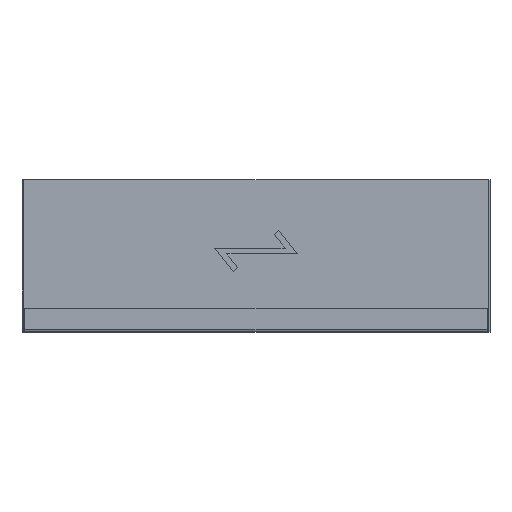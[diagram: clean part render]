
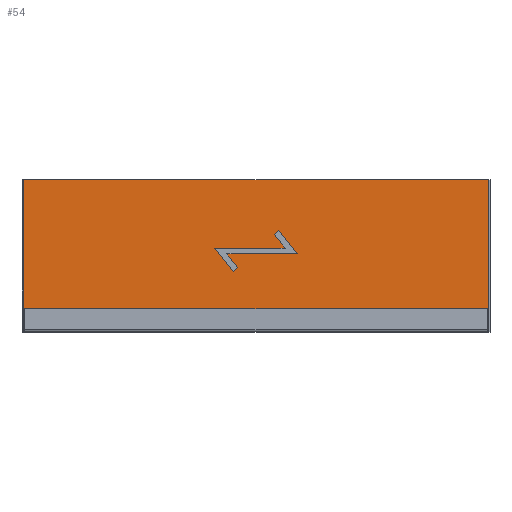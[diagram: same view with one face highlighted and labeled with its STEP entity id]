
A CAD part, top view. The second image highlights one B-rep face of the part: STEP entity #54.
In plain terms, the highlighted planar face has unit normal (0, 0, 1) as drawn and (0, 1, 0) by its records, which use the part's own axes.
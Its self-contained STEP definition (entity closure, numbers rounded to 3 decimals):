
#32 = DIRECTION ( 'NONE',  ( -0.625, 0., -0.781 ) ) ;
#34 = VECTOR ( 'NONE', #1030, 1000. ) ;
#54 = ADVANCED_FACE ( 'NONE', ( #1724, #182 ), #643, .F. ) ;
#76 = VECTOR ( 'NONE', #706, 1000. ) ;
#92 = CARTESIAN_POINT ( 'NONE',  ( 5., 25., -60. ) ) ;
#101 = EDGE_LOOP ( 'NONE', ( #1314, #509, #1079, #1043, #345, #982, #1999, #1779 ) ) ;
#114 = CARTESIAN_POINT ( 'NONE',  ( -34.35, 25., -38.903 ) ) ;
#125 = CARTESIAN_POINT ( 'NONE',  ( 34.35, 25., 38.903 ) ) ;
#131 = DIRECTION ( 'NONE',  ( -0.781, 0., 0.625 ) ) ;
#164 = AXIS2_PLACEMENT_3D ( 'NONE', #1268, #1890, #1737 ) ;
#182 = FACE_BOUND ( 'NONE', #101, .T. ) ;
#194 = ORIENTED_EDGE ( 'NONE', *, *, #735, .T. ) ;
#199 = EDGE_CURVE ( 'NONE', #1802, #1790, #219, .T. ) ;
#219 = LINE ( 'NONE', #1477, #34 ) ;
#234 = CARTESIAN_POINT ( 'NONE',  ( 5., 25., 49.592 ) ) ;
#257 = LINE ( 'NONE', #92, #340 ) ;
#261 = CARTESIAN_POINT ( 'NONE',  ( -3.125, 25., -63.903 ) ) ;
#286 = DIRECTION ( 'NONE',  ( 0., 0., 1. ) ) ;
#294 = CARTESIAN_POINT ( 'NONE',  ( 121.5, 25., 397. ) ) ;
#335 = CARTESIAN_POINT ( 'NONE',  ( 121.5, 25., 397. ) ) ;
#340 = VECTOR ( 'NONE', #1837, 1000. ) ;
#345 = ORIENTED_EDGE ( 'NONE', *, *, #1581, .F. ) ;
#359 = CARTESIAN_POINT ( 'NONE',  ( -3.125, 25., 56.097 ) ) ;
#404 = CARTESIAN_POINT ( 'NONE',  ( 34.35, 25., 38.903 ) ) ;
#413 = CARTESIAN_POINT ( 'NONE',  ( 5., 25., -70.408 ) ) ;
#438 = CARTESIAN_POINT ( 'NONE',  ( -121.5, 25., 397. ) ) ;
#440 = EDGE_LOOP ( 'NONE', ( #1343, #644, #194, #1091 ) ) ;
#446 = LINE ( 'NONE', #438, #1823 ) ;
#458 = VERTEX_POINT ( 'NONE', #1302 ) ;
#466 = CARTESIAN_POINT ( 'NONE',  ( -121.5, 25., -397. ) ) ;
#484 = EDGE_CURVE ( 'NONE', #704, #1802, #1669, .T. ) ;
#501 = VECTOR ( 'NONE', #1243, 1000. ) ;
#503 = DIRECTION ( 'NONE',  ( -0.781, 0., 0.625 ) ) ;
#509 = ORIENTED_EDGE ( 'NONE', *, *, #199, .F. ) ;
#595 = VERTEX_POINT ( 'NONE', #404 ) ;
#643 = PLANE ( 'NONE',  #164 ) ;
#644 = ORIENTED_EDGE ( 'NONE', *, *, #851, .T. ) ;
#698 = CARTESIAN_POINT ( 'NONE',  ( 121.5, 25., -397. ) ) ;
#704 = VERTEX_POINT ( 'NONE', #413 ) ;
#706 = DIRECTION ( 'NONE',  ( 0., 0., -1. ) ) ;
#735 = EDGE_CURVE ( 'NONE', #932, #972, #446, .T. ) ;
#765 = DIRECTION ( 'NONE',  ( 0., 0., -1. ) ) ;
#778 = VECTOR ( 'NONE', #765, 1000. ) ;
#792 = LINE ( 'NONE', #1700, #501 ) ;
#796 = VECTOR ( 'NONE', #1050, 1000. ) ;
#845 = EDGE_CURVE ( 'NONE', #846, #1766, #1888, .T. ) ;
#846 = VERTEX_POINT ( 'NONE', #335 ) ;
#851 = EDGE_CURVE ( 'NONE', #1766, #932, #1881, .T. ) ;
#932 = VERTEX_POINT ( 'NONE', #1152 ) ;
#962 = VECTOR ( 'NONE', #1421, 1000. ) ;
#972 = VERTEX_POINT ( 'NONE', #1743 ) ;
#982 = ORIENTED_EDGE ( 'NONE', *, *, #1921, .F. ) ;
#993 = CARTESIAN_POINT ( 'NONE',  ( -5., 25., -49.592 ) ) ;
#1020 = LINE ( 'NONE', #1633, #796 ) ;
#1030 = DIRECTION ( 'NONE',  ( 0.625, 0., 0.781 ) ) ;
#1043 = ORIENTED_EDGE ( 'NONE', *, *, #1287, .F. ) ;
#1045 = LINE ( 'NONE', #1954, #1257 ) ;
#1050 = DIRECTION ( 'NONE',  ( -0.781, 0., 0.625 ) ) ;
#1079 = ORIENTED_EDGE ( 'NONE', *, *, #484, .F. ) ;
#1091 = ORIENTED_EDGE ( 'NONE', *, *, #1747, .T. ) ;
#1152 = CARTESIAN_POINT ( 'NONE',  ( -121.5, 25., -397. ) ) ;
#1190 = EDGE_CURVE ( 'NONE', #458, #1618, #1378, .T. ) ;
#1191 = VECTOR ( 'NONE', #32, 1000. ) ;
#1243 = DIRECTION ( 'NONE',  ( -0.781, 0., 0.625 ) ) ;
#1257 = VECTOR ( 'NONE', #1822, 1000. ) ;
#1268 = CARTESIAN_POINT ( 'NONE',  ( 0., 25., 0. ) ) ;
#1287 = EDGE_CURVE ( 'NONE', #1770, #704, #257, .T. ) ;
#1296 = EDGE_CURVE ( 'NONE', #595, #458, #1020, .T. ) ;
#1302 = CARTESIAN_POINT ( 'NONE',  ( -5., 25., 70.408 ) ) ;
#1314 = ORIENTED_EDGE ( 'NONE', *, *, #1472, .T. ) ;
#1343 = ORIENTED_EDGE ( 'NONE', *, *, #845, .T. ) ;
#1378 = LINE ( 'NONE', #1653, #76 ) ;
#1421 = DIRECTION ( 'NONE',  ( -1., 0., 0. ) ) ;
#1463 = VECTOR ( 'NONE', #131, 1000. ) ;
#1472 = EDGE_CURVE ( 'NONE', #1618, #1790, #792, .T. ) ;
#1477 = CARTESIAN_POINT ( 'NONE',  ( -34.35, 25., -38.903 ) ) ;
#1581 = EDGE_CURVE ( 'NONE', #1649, #1770, #1923, .T. ) ;
#1618 = VERTEX_POINT ( 'NONE', #993 ) ;
#1633 = CARTESIAN_POINT ( 'NONE',  ( 3.125, 25., 63.903 ) ) ;
#1649 = VERTEX_POINT ( 'NONE', #1771 ) ;
#1653 = CARTESIAN_POINT ( 'NONE',  ( -5., 25., -60. ) ) ;
#1669 = LINE ( 'NONE', #261, #1463 ) ;
#1676 = CARTESIAN_POINT ( 'NONE',  ( -28.1, 25., -31.097 ) ) ;
#1700 = CARTESIAN_POINT ( 'NONE',  ( 3.125, 25., -56.097 ) ) ;
#1724 = FACE_OUTER_BOUND ( 'NONE', #440, .T. ) ;
#1737 = DIRECTION ( 'NONE',  ( 0., 0., -1. ) ) ;
#1743 = CARTESIAN_POINT ( 'NONE',  ( -121.5, 25., 397. ) ) ;
#1747 = EDGE_CURVE ( 'NONE', #972, #846, #1045, .T. ) ;
#1766 = VERTEX_POINT ( 'NONE', #698 ) ;
#1770 = VERTEX_POINT ( 'NONE', #234 ) ;
#1771 = CARTESIAN_POINT ( 'NONE',  ( 28.1, 25., 31.097 ) ) ;
#1779 = ORIENTED_EDGE ( 'NONE', *, *, #1190, .T. ) ;
#1790 = VERTEX_POINT ( 'NONE', #1676 ) ;
#1802 = VERTEX_POINT ( 'NONE', #114 ) ;
#1822 = DIRECTION ( 'NONE',  ( 1., 0., 0. ) ) ;
#1823 = VECTOR ( 'NONE', #286, 1000. ) ;
#1837 = DIRECTION ( 'NONE',  ( 0., 0., -1. ) ) ;
#1881 = LINE ( 'NONE', #466, #962 ) ;
#1888 = LINE ( 'NONE', #294, #778 ) ;
#1890 = DIRECTION ( 'NONE',  ( 0., -1., 0. ) ) ;
#1902 = LINE ( 'NONE', #125, #1191 ) ;
#1906 = VECTOR ( 'NONE', #503, 1000. ) ;
#1921 = EDGE_CURVE ( 'NONE', #595, #1649, #1902, .T. ) ;
#1923 = LINE ( 'NONE', #359, #1906 ) ;
#1954 = CARTESIAN_POINT ( 'NONE',  ( -121.5, 25., 397. ) ) ;
#1999 = ORIENTED_EDGE ( 'NONE', *, *, #1296, .T. ) ;
